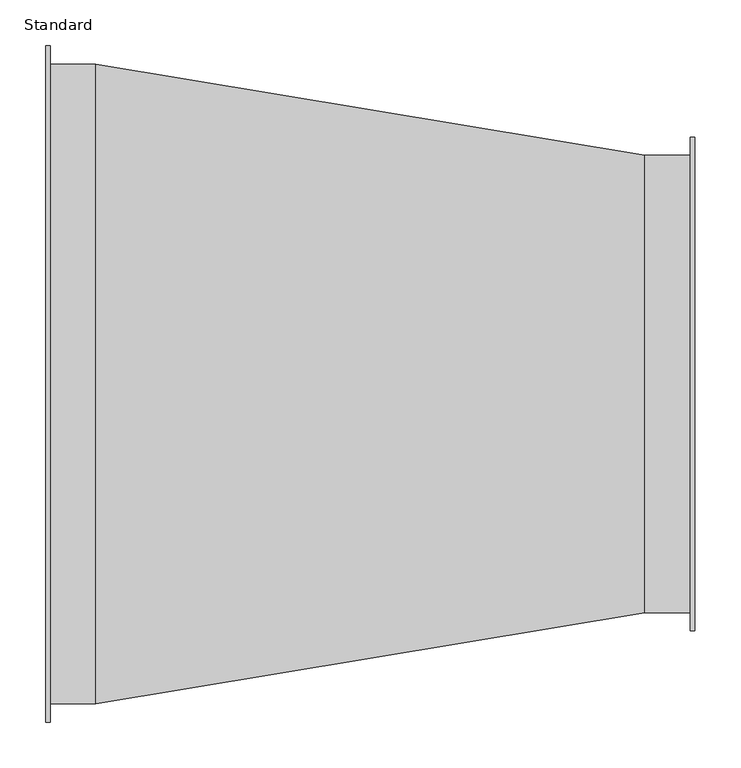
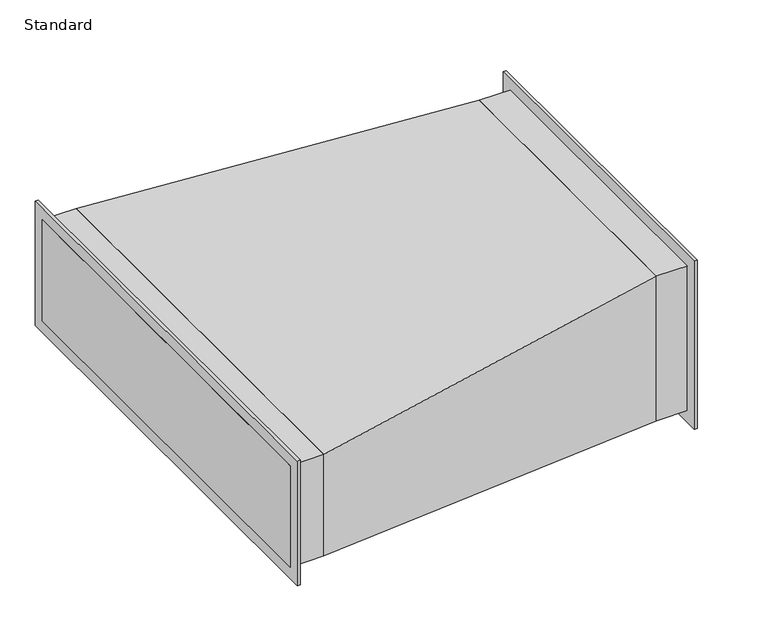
"""IFC4 building model written with IfcOpenShell, lengths in millimetres: duct fitting geometry, Übergang rechteck UA : Standard."""

import ifcopenshell
import ifcopenshell.guid

model = None  # the IFC model being written
_history = None  # IfcOwnerHistory: only IFC2X3 demands one
_inside = {}  # id of a spatial element -> (the spatial element, [elements in it])
_under = {}  # id of a project, library or spatial element -> (it, [spatial elements below it])
_declared = {}  # id of a project -> (the project, [libraries it declares])
_typed = {}  # id of a type object -> (the type object, [elements of that type])
_made_of = {}  # id of a material, layer set ... -> (it, [elements and type objects made of it])


def new_model(schema):
    """Start an empty IFC model of exactly this schema.

    Asked for "IFC4X3", IfcOpenShell would pick the latest addendum, in which some entities
    have other attributes; the version numbers below select the first issue.
    IFC2X3 requires an IfcOwnerHistory on every rooted entity: one is made here for all.
    """
    global model, _history
    if schema == "IFC4X3":
        model = ifcopenshell.file(schema_version=(4, 3, 0, 0))
    else:
        model = ifcopenshell.file(schema=schema)
    _inside.clear()
    _under.clear()
    _declared.clear()
    _typed.clear()
    _made_of.clear()
    _history = None
    if model.schema == "IFC2X3":
        org = make("IfcOrganization", Name="unknown")
        user = make(
            "IfcPersonAndOrganization",
            ThePerson=make("IfcPerson", FamilyName="unknown"),
            TheOrganization=org,
        )
        app = make(
            "IfcApplication",
            ApplicationDeveloper=org,
            Version="unknown",
            ApplicationFullName="unknown",
            ApplicationIdentifier="unknown",
        )
        _history = make(
            "IfcOwnerHistory",
            OwningUser=user,
            OwningApplication=app,
            ChangeAction="ADDED",
            CreationDate=0,
        )
    return model


def make(cls, **values):
    """One entity of the class cls with the attributes given. An attribute that is None is left unset."""
    return model.create_entity(
        cls, **{name: value for name, value in values.items() if value is not None}
    )


def rooted(cls, **values):
    """An entity with a GlobalId (a new one), such as an element, a storey or a relation."""
    return make(cls, GlobalId=ifcopenshell.guid.new(), OwnerHistory=_history, **values)


def si_unit(unit_type, name, prefix=None):
    """IfcSIUnit, for example si_unit("LENGTHUNIT", "METRE", prefix="MILLI")."""
    return make("IfcSIUnit", UnitType=unit_type, Prefix=prefix, Name=name)


def assignment(units):
    """IfcUnitAssignment: the units of a project."""
    return None if units is None else make("IfcUnitAssignment", Units=units)


def point(xyz):
    """IfcCartesianPoint."""
    return None if xyz is None else make("IfcCartesianPoint", Coordinates=xyz)


def direction(xyz):
    """IfcDirection."""
    return None if xyz is None else make("IfcDirection", DirectionRatios=xyz)


def frame(location, z_axis=None, x_axis=None):
    """IfcAxis2Placement3D, a coordinate frame: its origin and axes. An axis left out is left unset."""
    return make(
        "IfcAxis2Placement3D",
        Location=point(location),
        Axis=direction(z_axis),
        RefDirection=direction(x_axis),
    )


def origin():
    """The frame at (0, 0, 0) with its axes left unset."""
    return frame((0.0, 0.0, 0.0))


def place(relative_to, where):
    """IfcLocalPlacement: puts the frame where relative to a parent placement (None: the world)."""
    return make(
        "IfcLocalPlacement", PlacementRelTo=relative_to, RelativePlacement=where
    )


def context(
    kind, dimensions, precision=None, world=None, true_north=None, identifier=None
):
    """IfcGeometricRepresentationContext, for example the 3D "Model" context."""
    return make(
        "IfcGeometricRepresentationContext",
        ContextIdentifier=identifier,
        ContextType=kind,
        CoordinateSpaceDimension=dimensions,
        Precision=precision,
        WorldCoordinateSystem=world,
        TrueNorth=true_north,
    )


def project(units=None, contexts=None):
    """IfcProject with its units and contexts."""
    return rooted(
        "IfcProject",
        Name="project",
        RepresentationContexts=contexts,
        UnitsInContext=assignment(units),
    )


def spatial(cls, under=None, at=None, **own):
    """A site, building, storey or space (cls), placed at a placement, below another one or the project."""
    s = rooted(cls, ObjectPlacement=at, **own)
    if under is not None:
        _under.setdefault(under.id(), (under, []))[1].append(s)
    return s


def polyline(points):
    """IfcPolyline through the points."""
    return make("IfcPolyline", Points=[point(p) for p in points])


def outline(outer, holes=None, kind="AREA"):
    """IfcArbitraryClosedProfileDef: a profile drawn as a closed curve; with holes, ...WithVoids."""
    if holes is None:
        return make("IfcArbitraryClosedProfileDef", ProfileType=kind, OuterCurve=outer)
    return make(
        "IfcArbitraryProfileDefWithVoids",
        ProfileType=kind,
        OuterCurve=outer,
        InnerCurves=holes,
    )


def extrude(swept, where, along, depth):
    """IfcExtrudedAreaSolid: the profile swept, set in the frame where, extruded along a direction by depth."""
    return make(
        "IfcExtrudedAreaSolid",
        SweptArea=swept,
        Position=where,
        ExtrudedDirection=direction(along),
        Depth=depth,
    )


def faces_of(points, faces, orient=None, outer=None):
    """IfcFace entities. A face is a list of loops; a loop is a list of indices into points, from 0.

    orient and outer hold one flag for each loop. By default every Orientation is true, the
    first loop of a face is its IfcFaceOuterBound and the others are IfcFaceBound.
    """
    made = []
    for i, loops in enumerate(faces):
        bounds = []
        for j, loop in enumerate(loops):
            is_outer = j == 0 if outer is None else outer[i][j]
            bounds.append(
                make(
                    "IfcFaceOuterBound" if is_outer else "IfcFaceBound",
                    Bound=make("IfcPolyLoop", Polygon=[points[k] for k in loop]),
                    Orientation=True if orient is None else orient[i][j],
                )
            )
        made.append(make("IfcFace", Bounds=bounds))
    return made


def faceted_brep(points, faces, orient=None, outer=None, voids=None):
    """IfcFacetedBrep: a solid bounded by flat faces; with voids (closed shells), ...WithVoids."""
    shared = [point(p) for p in points]
    hull = make("IfcClosedShell", CfsFaces=faces_of(shared, faces, orient, outer))
    if voids is None:
        return make("IfcFacetedBrep", Outer=hull)
    return make(
        "IfcFacetedBrepWithVoids",
        Outer=hull,
        Voids=[
            make(cls, CfsFaces=faces_of(shared, fs, o, b)) for cls, fs, o, b in voids
        ],
    )


def shape(context_of_items, identifier, shape_type, items):
    """IfcShapeRepresentation: the items that make up one representation, for example the "Body"."""
    return make(
        "IfcShapeRepresentation",
        ContextOfItems=context_of_items,
        RepresentationIdentifier=identifier,
        RepresentationType=shape_type,
        Items=items,
    )


def source(mapping_origin, context_of_items, identifier, shape_type, items):
    """IfcRepresentationMap: a shape defined once, which mapped items show again and again."""
    return make(
        "IfcRepresentationMap",
        MappingOrigin=mapping_origin,
        MappedRepresentation=shape(context_of_items, identifier, shape_type, items),
    )


def transform(
    local_origin,
    x_axis=None,
    y_axis=None,
    z_axis=None,
    scale=None,
    scale2=None,
    scale3=None,
    uniform=True,
):
    """IfcCartesianTransformationOperator3D, or its non-uniform kind. x_axis, y_axis, z_axis: its Axis1, 2, 3."""
    if uniform:
        return make(
            "IfcCartesianTransformationOperator3D",
            Axis1=direction(x_axis),
            Axis2=direction(y_axis),
            LocalOrigin=point(local_origin),
            Scale=scale,
            Axis3=direction(z_axis),
        )
    return make(
        "IfcCartesianTransformationOperator3DnonUniform",
        Axis1=direction(x_axis),
        Axis2=direction(y_axis),
        LocalOrigin=point(local_origin),
        Scale=scale,
        Axis3=direction(z_axis),
        Scale2=scale2,
        Scale3=scale3,
    )


def mapped(mapping_source, mapping_target):
    """IfcMappedItem: shows the shape of a source again, moved by a transform."""
    return make(
        "IfcMappedItem", MappingSource=mapping_source, MappingTarget=mapping_target
    )


def made_of(thing, what):
    """Note that an element or type object is made of a material, layer set ...; save() writes the relation."""
    if what is not None:
        _made_of.setdefault(what.id(), (what, []))[1].append(thing)
    return thing


def element(
    cls,
    number,
    at=None,
    inside=None,
    cuts=None,
    type_object=None,
    material=None,
    context=None,
    identifier="Body",
    shape_type=None,
    held_by="IfcProductDefinitionShape",
    body=None,
    shapes=None,
    **own,
):
    """One element of the class cls, such as IfcWall. Its Tag is "e" and its number.

    at: its placement. inside: the storey or other place that contains it. cuts: it is an
    opening in that element (IfcRelVoidsElement). A single representation is given by context,
    identifier, shape_type and body (its items); several are given by shapes. held_by: the class
    of the entity that holds the representations. save() writes the other relations.
    """
    e = rooted(cls, Tag="e%d" % number, ObjectPlacement=at, **own)
    if body is not None:
        shapes = [shape(context, identifier, shape_type, body)]
    if shapes is not None:
        e.Representation = make(held_by, Representations=shapes)
    if inside is not None:
        _inside.setdefault(inside.id(), (inside, []))[1].append(e)
    if cuts is not None:
        rooted(
            "IfcRelVoidsElement", RelatingBuildingElement=cuts, RelatedOpeningElement=e
        )
    if type_object is not None:
        _typed.setdefault(type_object.id(), (type_object, []))[1].append(e)
    return made_of(e, material)


def aggregate(whole, parts):
    """IfcRelAggregates: a whole, such as a stair, and the parts it consists of."""
    return rooted("IfcRelAggregates", RelatingObject=whole, RelatedObjects=parts)


def save(model, path):
    """Write the relations noted so far, then the file.

    IfcRelAggregates (storeys below a building ...), IfcRelContainedInSpatialStructure (elements
    in a storey), IfcRelDefinesByType, IfcRelAssociatesMaterial and IfcRelDeclares: one each for
    every whole, place, type object, material and project.
    """
    for whole, parts in _under.values():
        aggregate(whole, parts)
    for where, things in _inside.values():
        rooted(
            "IfcRelContainedInSpatialStructure",
            RelatedElements=things,
            RelatingStructure=where,
        )
    for kind, things in _typed.values():
        rooted("IfcRelDefinesByType", RelatedObjects=things, RelatingType=kind)
    for what, things in _made_of.values():
        rooted("IfcRelAssociatesMaterial", RelatedObjects=things, RelatingMaterial=what)
    for by, libraries in _declared.values():
        rooted("IfcRelDeclares", RelatingContext=by, RelatedDefinitions=libraries)
    model.write(path)


def standard_6fa5d38b(model_context):
    return source(origin(), model_context, "Body", "SolidModel", [
        extrude(outline(polyline([(655.0, -250.0), (655.0, 250.0), (710.0, 250.0), (710.0, -250.0), (655.0, -250.0)])), frame((0.0, 0.0, -125.0), z_axis=(0.0, 0.0, 1.0), x_axis=(1.0, 0.0, 0.0)), (0.0, 0.0, 1.0), 250.0),
        faceted_brep([(655.0, 250.0, 125.0), (655.0, -250.0, 125.0), (655.0, -250.0, -125.0), (655.0, 250.0, -125.0), (55.0, 350.0, 87.5), (55.0, 350.0, -87.5), (55.0, -350.0, -87.5), (55.0, -350.0, 87.5)], [[[0, 1, 2, 3]], [[4, 5, 6, 7]], [[5, 4, 0, 3]], [[4, 7, 1, 0]], [[7, 6, 2, 1]], [[6, 5, 3, 2]]]),
        extrude(outline(polyline([(0.0, -350.0), (0.0, 350.0), (55.0, 350.0), (55.0, -350.0), (0.0, -350.0)])), frame((0.0, 0.0, -87.5), z_axis=(0.0, 0.0, 1.0), x_axis=(1.0, 0.0, 0.0)), (0.0, 0.0, 1.0), 175.0),
        extrude(outline(polyline([(705.0, -270.0), (705.0, 270.0), (710.0, 270.0), (710.0, -270.0), (705.0, -270.0)])), frame((0.0, 0.0, -145.0), z_axis=(0.0, 0.0, 1.0), x_axis=(1.0, 0.0, 0.0)), (0.0, 0.0, 1.0), 290.0),
        extrude(outline(polyline([(0.0, -370.0), (0.0, 370.0), (5.0, 370.0), (5.0, -370.0), (0.0, -370.0)])), frame((0.0, 0.0, -107.5), z_axis=(0.0, 0.0, 1.0), x_axis=(1.0, 0.0, 0.0)), (0.0, 0.0, 1.0), 215.0),
    ])


if __name__ == "__main__":
    model = new_model("IFC4")
    model_context = context("Model", 3, world=origin())
    ifc_project = project(units=[si_unit("LENGTHUNIT", "METRE", prefix="MILLI")], contexts=[model_context])
    site = spatial("IfcSite", under=ifc_project)
    building = spatial("IfcBuilding", under=site)
    placement = place(None, origin())
    standard_shape = standard_6fa5d38b(model_context)
    element("IfcDuctFitting", 1, ObjectType="Übergang rechteck UA : Standard", at=placement, inside=building, context=model_context, shape_type="MappedRepresentation", body=[
        mapped(standard_shape, transform((0.0, 0.0, 0.0), x_axis=(1.0, 0.0, 0.0), y_axis=(0.0, 1.0, 0.0), z_axis=(0.0, 0.0, 1.0))),
    ])
    save(model, "model.ifc")
